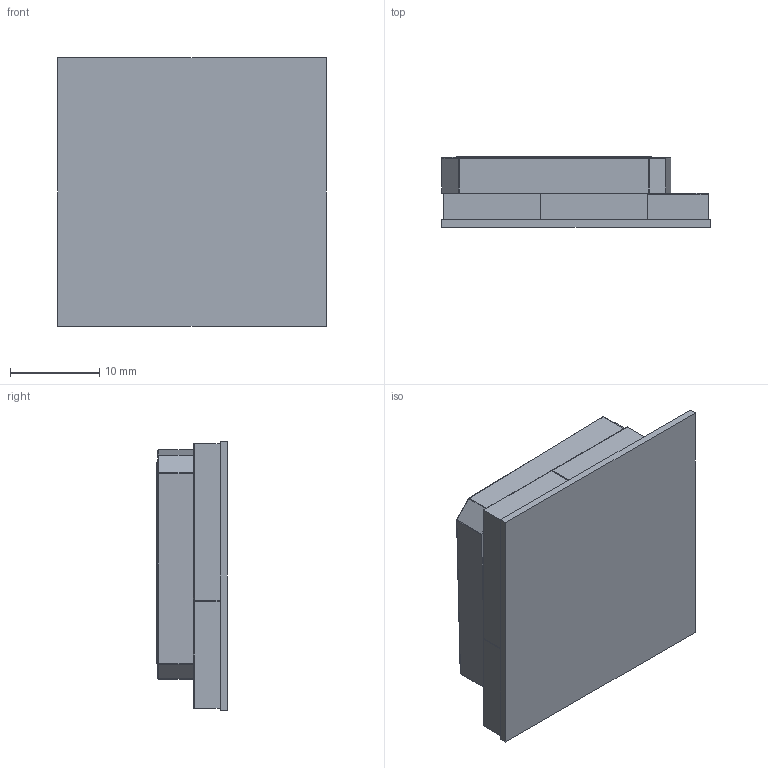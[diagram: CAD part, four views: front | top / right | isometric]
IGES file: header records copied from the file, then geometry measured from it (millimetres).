
Start section: SolidWorks IGES file using analytic representation for surfaces
Global section: file name: C:\Users\Luke\Documents\My CAD Files\Electronic Parts\EM406 GPS Module.IGS; native system: SolidWorks 2014; preprocessor: SolidWorks 2014; author: Luke; date: 150408.191900; units: millimetre
Bounding box: 30.1 x 7.9 x 30.1 mm (x, y, z)
Surface area: 3136.9 mm2 (no closed solid volume)
Topology: 0 solids, 0 shells, 162 faces, 877 edges, 875 vertices
Faces by surface type: bspline 121, revolution 41
